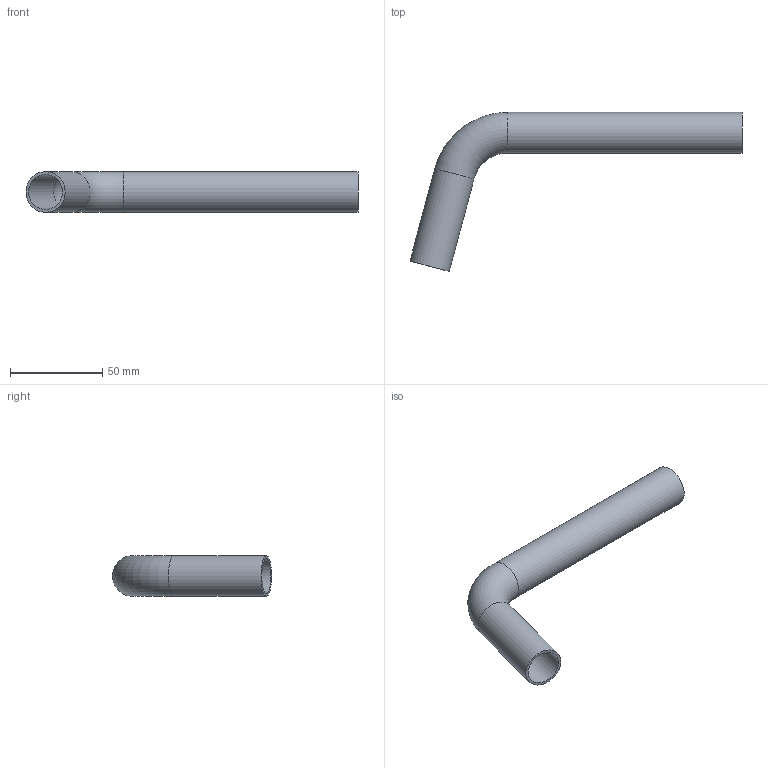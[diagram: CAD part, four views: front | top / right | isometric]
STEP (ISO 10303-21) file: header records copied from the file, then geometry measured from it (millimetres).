
FILE_DESCRIPTION((''),'2;1');
FILE_NAME('G:\Technics\CAD\Bauteile\022\6904522(1).stp','2008-02-18T10:55:34',('herberg'),(''),'Autodesk Inventor 2008','Autodesk Inventor 2008','');
FILE_SCHEMA(('AUTOMOTIVE_DESIGN { 1 0 10303 214 1 1 1 1 }'));
Length unit declared in the file: millimetre
Products named in the file (1): 6904522(1)
Bounding box: 180.04 x 86.29 x 22 mm (x, y, z)
Volume: 21081.9 mm3; surface area: 28302.4 mm2
Topology: 1 solids, 1 shells, 8 faces, 14 edges, 8 vertices
Faces by surface type: cylinder 4, torus 2, plane 2
Full cylindrical faces by diameter (mm): 19 x2, 22 x2
Entity records: 194 total; most frequent: DIRECTION 34, CARTESIAN_POINT 25, AXIS2_PLACEMENT_3D 17, ORIENTED_EDGE 16, EDGE_LOOP 16, VERTEX_POINT 8, CIRCLE 8, EDGE_CURVE 8
